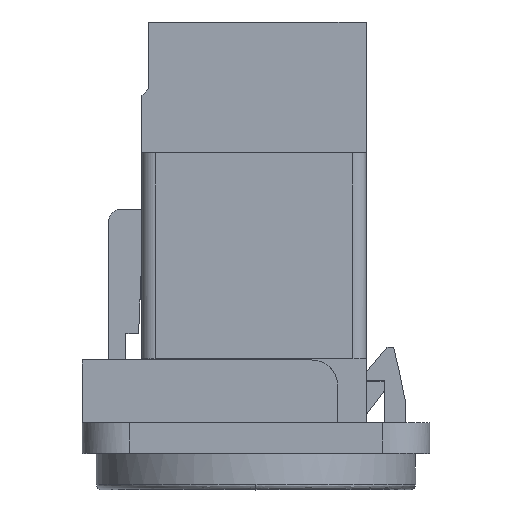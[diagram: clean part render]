
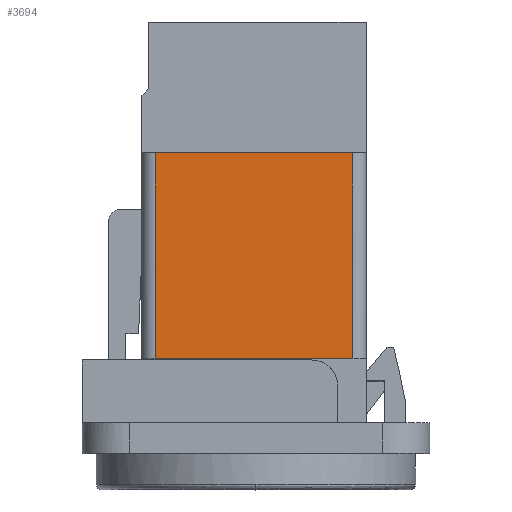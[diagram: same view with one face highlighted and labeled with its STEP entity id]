
A CAD part, top view. The second image highlights one B-rep face of the part: STEP entity #3694.
In plain terms, the highlighted free-form (B-spline) face has degree [1, 1] with [2, 2] control points.
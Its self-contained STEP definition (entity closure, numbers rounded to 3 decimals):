
#3625 = VERTEX_POINT('',#3626);
#3626 = CARTESIAN_POINT('',(9.8,15.85,-15.79));
#3644 = EDGE_CURVE('',#3625,#3645,#3647,.T.);
#3645 = VERTEX_POINT('',#3646);
#3646 = CARTESIAN_POINT('',(25.2,15.85,-15.79));
#3647 = B_SPLINE_CURVE_WITH_KNOTS('',5,(#3648,#3649,#3650,#3651,#3652,
    #3653),.UNSPECIFIED.,.F.,.F.,(6,6),(0.,15.4),
  .PIECEWISE_BEZIER_KNOTS.);
#3648 = CARTESIAN_POINT('',(9.8,15.85,-15.79));
#3649 = CARTESIAN_POINT('',(12.88,15.85,-15.79));
#3650 = CARTESIAN_POINT('',(15.96,15.85,-15.79));
#3651 = CARTESIAN_POINT('',(19.04,15.85,-15.79));
#3652 = CARTESIAN_POINT('',(22.12,15.85,-15.79));
#3653 = CARTESIAN_POINT('',(25.2,15.85,-15.79));
#3694 = ADVANCED_FACE('',(#3695),#3729,.T.);
#3695 = FACE_BOUND('',#3696,.T.);
#3696 = EDGE_LOOP('',(#3697,#3698,#3709,#3720));
#3697 = ORIENTED_EDGE('',*,*,#3644,.F.);
#3698 = ORIENTED_EDGE('',*,*,#3699,.T.);
#3699 = EDGE_CURVE('',#3625,#3700,#3702,.T.);
#3700 = VERTEX_POINT('',#3701);
#3701 = CARTESIAN_POINT('',(9.8,15.85,-0.99));
#3702 = B_SPLINE_CURVE_WITH_KNOTS('',5,(#3703,#3704,#3705,#3706,#3707,
    #3708),.UNSPECIFIED.,.F.,.F.,(6,6),(0.,14.8),
  .PIECEWISE_BEZIER_KNOTS.);
#3703 = CARTESIAN_POINT('',(9.8,15.85,-15.79));
#3704 = CARTESIAN_POINT('',(9.8,15.85,-12.83));
#3705 = CARTESIAN_POINT('',(9.8,15.85,-9.87));
#3706 = CARTESIAN_POINT('',(9.8,15.85,-6.91));
#3707 = CARTESIAN_POINT('',(9.8,15.85,-3.95));
#3708 = CARTESIAN_POINT('',(9.8,15.85,-0.99));
#3709 = ORIENTED_EDGE('',*,*,#3710,.F.);
#3710 = EDGE_CURVE('',#3711,#3700,#3713,.T.);
#3711 = VERTEX_POINT('',#3712);
#3712 = CARTESIAN_POINT('',(25.2,15.85,-0.99)
  );
#3713 = B_SPLINE_CURVE_WITH_KNOTS('',5,(#3714,#3715,#3716,#3717,#3718,
    #3719),.UNSPECIFIED.,.F.,.F.,(6,6),(0.,15.4),
  .PIECEWISE_BEZIER_KNOTS.);
#3714 = CARTESIAN_POINT('',(25.2,15.85,-0.99)
  );
#3715 = CARTESIAN_POINT('',(22.12,15.85,-0.99)
  );
#3716 = CARTESIAN_POINT('',(19.04,15.85,-0.99)
  );
#3717 = CARTESIAN_POINT('',(15.96,15.85,-0.99)
  );
#3718 = CARTESIAN_POINT('',(12.88,15.85,-0.99)
  );
#3719 = CARTESIAN_POINT('',(9.8,15.85,-0.99));
#3720 = ORIENTED_EDGE('',*,*,#3721,.T.);
#3721 = EDGE_CURVE('',#3711,#3645,#3722,.T.);
#3722 = B_SPLINE_CURVE_WITH_KNOTS('',5,(#3723,#3724,#3725,#3726,#3727,
    #3728),.UNSPECIFIED.,.F.,.F.,(6,6),(0.,14.8),
  .PIECEWISE_BEZIER_KNOTS.);
#3723 = CARTESIAN_POINT('',(25.2,15.85,-0.99)
  );
#3724 = CARTESIAN_POINT('',(25.2,15.85,-3.95)
  );
#3725 = CARTESIAN_POINT('',(25.2,15.85,-6.91)
  );
#3726 = CARTESIAN_POINT('',(25.2,15.85,-9.87)
  );
#3727 = CARTESIAN_POINT('',(25.2,15.85,-12.83
    ));
#3728 = CARTESIAN_POINT('',(25.2,15.85,-15.79));
#3729 = B_SPLINE_SURFACE_WITH_KNOTS('',1,1,(
    (#3730,#3731)
    ,(#3732,#3733
    )),.UNSPECIFIED.,.F.,.F.,.F.,(2,2),(2,2),(0.,1.),(0.,1.041)
  ,.PIECEWISE_BEZIER_KNOTS.);
#3730 = CARTESIAN_POINT('',(9.8,15.85,-15.79));
#3731 = CARTESIAN_POINT('',(25.2,15.85,-15.79));
#3732 = CARTESIAN_POINT('',(9.8,15.85,-0.99));
#3733 = CARTESIAN_POINT('',(25.2,15.85,-0.99)
  );
